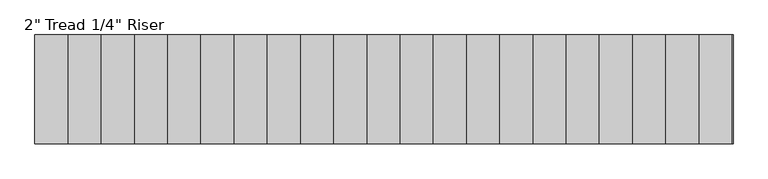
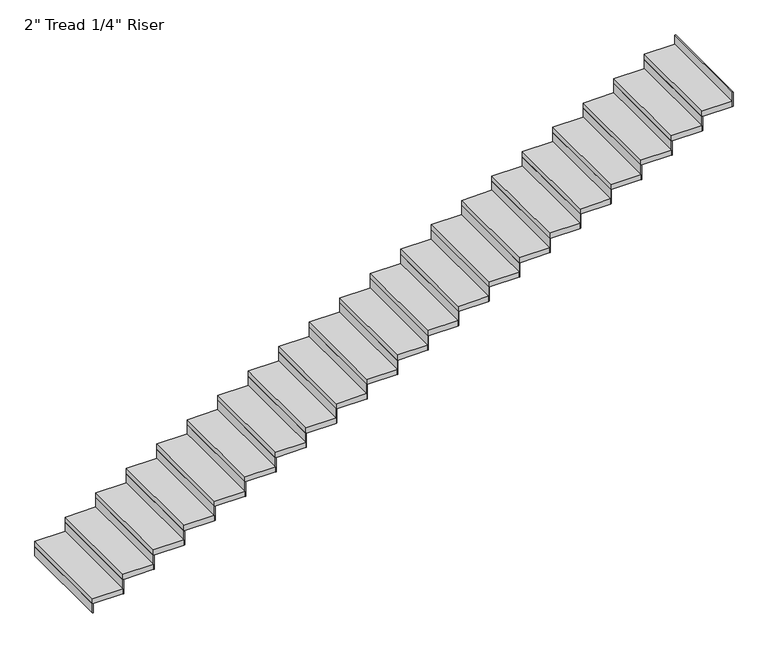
"""IFC4 building model written with IfcOpenShell, lengths in millimetres: stair flight geometry."""

from ifc_helpers import new_model, si_unit, frame, origin, origin_with_axes, place, context, project, spatial, polyline, outline, extrude, source, transform, mapped, element, save


def stair_flight_7e468073(model_context):
    return source(origin(), model_context, "Body", "SweptSolid", [
        extrude(outline(polyline([(14064.4766433, -11321.4469585), (14058.1266433, -11321.4469585), (14058.1266433, -10407.0469585), (14064.4766433, -10407.0469585), (14064.4766433, -11321.4469585)])), origin_with_axes(), (0.0, 0.0, 1.0), 87.7454545),
        extrude(outline(polyline([(14337.5266433, -10407.0469585), (14337.5266433, -11321.4469585), (14058.1266433, -11321.4469585), (14058.1266433, -10407.0469585), (14337.5266433, -10407.0469585)])), frame((0.0, 0.0, 87.7454545), z_axis=(0.0, 0.0, 1.0), x_axis=(1.0, 0.0, 0.0)), (0.0, 0.0, 1.0), 50.8),
        extrude(outline(polyline([(14343.8766433, -11321.4469585), (14337.5266433, -11321.4469585), (14337.5266433, -10407.0469585), (14343.8766433, -10407.0469585), (14343.8766433, -11321.4469585)])), frame((0.0, 0.0, 87.7454545), z_axis=(0.0, 0.0, 1.0), x_axis=(1.0, 0.0, 0.0)), (0.0, 0.0, 1.0), 138.5454545),
        extrude(outline(polyline([(14616.9266433, -10407.0469585), (14616.9266433, -11321.4469585), (14337.5266433, -11321.4469585), (14337.5266433, -10407.0469585), (14616.9266433, -10407.0469585)])), frame((0.0, 0.0, 226.2909091), z_axis=(0.0, 0.0, 1.0), x_axis=(1.0, 0.0, 0.0)), (0.0, 0.0, 1.0), 50.8),
        extrude(outline(polyline([(14623.2766433, -11321.4469585), (14616.9266433, -11321.4469585), (14616.9266433, -10407.0469585), (14623.2766433, -10407.0469585), (14623.2766433, -11321.4469585)])), frame((0.0, 0.0, 226.2909091), z_axis=(0.0, 0.0, 1.0), x_axis=(1.0, 0.0, 0.0)), (0.0, 0.0, 1.0), 138.5454545),
        extrude(outline(polyline([(14896.3266433, -10407.0469585), (14896.3266433, -11321.4469585), (14616.9266433, -11321.4469585), (14616.9266433, -10407.0469585), (14896.3266433, -10407.0469585)])), frame((0.0, 0.0, 364.8363636), z_axis=(0.0, 0.0, 1.0), x_axis=(1.0, 0.0, 0.0)), (0.0, 0.0, 1.0), 50.8),
        extrude(outline(polyline([(14902.6766433, -11321.4469585), (14896.3266433, -11321.4469585), (14896.3266433, -10407.0469585), (14902.6766433, -10407.0469585), (14902.6766433, -11321.4469585)])), frame((0.0, 0.0, 364.8363636), z_axis=(0.0, 0.0, 1.0), x_axis=(1.0, 0.0, 0.0)), (0.0, 0.0, 1.0), 138.5454545),
        extrude(outline(polyline([(15175.7266433, -10407.0469585), (15175.7266433, -11321.4469585), (14896.3266433, -11321.4469585), (14896.3266433, -10407.0469585), (15175.7266433, -10407.0469585)])), frame((0.0, 0.0, 503.3818182), z_axis=(0.0, 0.0, 1.0), x_axis=(1.0, 0.0, 0.0)), (0.0, 0.0, 1.0), 50.8),
        extrude(outline(polyline([(15182.0766433, -11321.4469585), (15175.7266433, -11321.4469585), (15175.7266433, -10407.0469585), (15182.0766433, -10407.0469585), (15182.0766433, -11321.4469585)])), frame((0.0, 0.0, 503.3818182), z_axis=(0.0, 0.0, 1.0), x_axis=(1.0, 0.0, 0.0)), (0.0, 0.0, 1.0), 138.5454545),
        extrude(outline(polyline([(15455.1266433, -10407.0469585), (15455.1266433, -11321.4469585), (15175.7266433, -11321.4469585), (15175.7266433, -10407.0469585), (15455.1266433, -10407.0469585)])), frame((0.0, 0.0, 641.9272727), z_axis=(0.0, 0.0, 1.0), x_axis=(1.0, 0.0, 0.0)), (0.0, 0.0, 1.0), 50.8),
        extrude(outline(polyline([(15461.4766433, -11321.4469585), (15455.1266433, -11321.4469585), (15455.1266433, -10407.0469585), (15461.4766433, -10407.0469585), (15461.4766433, -11321.4469585)])), frame((0.0, 0.0, 641.9272727), z_axis=(0.0, 0.0, 1.0), x_axis=(1.0, 0.0, 0.0)), (0.0, 0.0, 1.0), 138.5454545),
        extrude(outline(polyline([(15734.5266433, -10407.0469585), (15734.5266433, -11321.4469585), (15455.1266433, -11321.4469585), (15455.1266433, -10407.0469585), (15734.5266433, -10407.0469585)])), frame((0.0, 0.0, 780.4727273), z_axis=(0.0, 0.0, 1.0), x_axis=(1.0, 0.0, 0.0)), (0.0, 0.0, 1.0), 50.8),
        extrude(outline(polyline([(15740.8766433, -11321.4469585), (15734.5266433, -11321.4469585), (15734.5266433, -10407.0469585), (15740.8766433, -10407.0469585), (15740.8766433, -11321.4469585)])), frame((0.0, 0.0, 780.4727273), z_axis=(0.0, 0.0, 1.0), x_axis=(1.0, 0.0, 0.0)), (0.0, 0.0, 1.0), 138.5454545),
        extrude(outline(polyline([(16013.9266433, -10407.0469585), (16013.9266433, -11321.4469585), (15734.5266433, -11321.4469585), (15734.5266433, -10407.0469585), (16013.9266433, -10407.0469585)])), frame((0.0, 0.0, 919.0181818), z_axis=(0.0, 0.0, 1.0), x_axis=(1.0, 0.0, 0.0)), (0.0, 0.0, 1.0), 50.8),
        extrude(outline(polyline([(16020.2766433, -11321.4469585), (16013.9266433, -11321.4469585), (16013.9266433, -10407.0469585), (16020.2766433, -10407.0469585), (16020.2766433, -11321.4469585)])), frame((0.0, 0.0, 919.0181818), z_axis=(0.0, 0.0, 1.0), x_axis=(1.0, 0.0, 0.0)), (0.0, 0.0, 1.0), 138.5454545),
        extrude(outline(polyline([(16293.3266433, -10407.0469585), (16293.3266433, -11321.4469585), (16013.9266433, -11321.4469585), (16013.9266433, -10407.0469585), (16293.3266433, -10407.0469585)])), frame((0.0, 0.0, 1057.5636364), z_axis=(0.0, 0.0, 1.0), x_axis=(1.0, 0.0, 0.0)), (0.0, 0.0, 1.0), 50.8),
        extrude(outline(polyline([(16299.6766433, -11321.4469585), (16293.3266433, -11321.4469585), (16293.3266433, -10407.0469585), (16299.6766433, -10407.0469585), (16299.6766433, -11321.4469585)])), frame((0.0, 0.0, 1057.5636364), z_axis=(0.0, 0.0, 1.0), x_axis=(1.0, 0.0, 0.0)), (0.0, 0.0, 1.0), 138.5454545),
        extrude(outline(polyline([(16572.7266433, -10407.0469585), (16572.7266433, -11321.4469585), (16293.3266433, -11321.4469585), (16293.3266433, -10407.0469585), (16572.7266433, -10407.0469585)])), frame((0.0, 0.0, 1196.1090909), z_axis=(0.0, 0.0, 1.0), x_axis=(1.0, 0.0, 0.0)), (0.0, 0.0, 1.0), 50.8),
        extrude(outline(polyline([(16579.0766433, -11321.4469585), (16572.7266433, -11321.4469585), (16572.7266433, -10407.0469585), (16579.0766433, -10407.0469585), (16579.0766433, -11321.4469585)])), frame((0.0, 0.0, 1196.1090909), z_axis=(0.0, 0.0, 1.0), x_axis=(1.0, 0.0, 0.0)), (0.0, 0.0, 1.0), 138.5454545),
        extrude(outline(polyline([(16852.1266433, -10407.0469585), (16852.1266433, -11321.4469585), (16572.7266433, -11321.4469585), (16572.7266433, -10407.0469585), (16852.1266433, -10407.0469585)])), frame((0.0, 0.0, 1334.6545455), z_axis=(0.0, 0.0, 1.0), x_axis=(1.0, 0.0, 0.0)), (0.0, 0.0, 1.0), 50.8),
        extrude(outline(polyline([(16858.4766433, -11321.4469585), (16852.1266433, -11321.4469585), (16852.1266433, -10407.0469585), (16858.4766433, -10407.0469585), (16858.4766433, -11321.4469585)])), frame((0.0, 0.0, 1334.6545455), z_axis=(0.0, 0.0, 1.0), x_axis=(1.0, 0.0, 0.0)), (0.0, 0.0, 1.0), 138.5454545),
        extrude(outline(polyline([(17131.5266433, -10407.0469585), (17131.5266433, -11321.4469585), (16852.1266433, -11321.4469585), (16852.1266433, -10407.0469585), (17131.5266433, -10407.0469585)])), frame((0.0, 0.0, 1473.2), z_axis=(0.0, 0.0, 1.0), x_axis=(1.0, 0.0, 0.0)), (0.0, 0.0, 1.0), 50.8),
        extrude(outline(polyline([(17137.8766433, -11321.4469585), (17131.5266433, -11321.4469585), (17131.5266433, -10407.0469585), (17137.8766433, -10407.0469585), (17137.8766433, -11321.4469585)])), frame((0.0, 0.0, 1473.2), z_axis=(0.0, 0.0, 1.0), x_axis=(1.0, 0.0, 0.0)), (0.0, 0.0, 1.0), 138.5454545),
        extrude(outline(polyline([(17410.9266433, -10407.0469585), (17410.9266433, -11321.4469585), (17131.5266433, -11321.4469585), (17131.5266433, -10407.0469585), (17410.9266433, -10407.0469585)])), frame((0.0, 0.0, 1611.7454545), z_axis=(0.0, 0.0, 1.0), x_axis=(1.0, 0.0, 0.0)), (0.0, 0.0, 1.0), 50.8),
        extrude(outline(polyline([(17417.2766433, -11321.4469585), (17410.9266433, -11321.4469585), (17410.9266433, -10407.0469585), (17417.2766433, -10407.0469585), (17417.2766433, -11321.4469585)])), frame((0.0, 0.0, 1611.7454545), z_axis=(0.0, 0.0, 1.0), x_axis=(1.0, 0.0, 0.0)), (0.0, 0.0, 1.0), 138.5454545),
        extrude(outline(polyline([(17690.3266433, -10407.0469585), (17690.3266433, -11321.4469585), (17410.9266433, -11321.4469585), (17410.9266433, -10407.0469585), (17690.3266433, -10407.0469585)])), frame((0.0, 0.0, 1750.2909091), z_axis=(0.0, 0.0, 1.0), x_axis=(1.0, 0.0, 0.0)), (0.0, 0.0, 1.0), 50.8),
        extrude(outline(polyline([(17696.6766433, -11321.4469585), (17690.3266433, -11321.4469585), (17690.3266433, -10407.0469585), (17696.6766433, -10407.0469585), (17696.6766433, -11321.4469585)])), frame((0.0, 0.0, 1750.2909091), z_axis=(0.0, 0.0, 1.0), x_axis=(1.0, 0.0, 0.0)), (0.0, 0.0, 1.0), 138.5454545),
        extrude(outline(polyline([(17969.7266433, -10407.0469585), (17969.7266433, -11321.4469585), (17690.3266433, -11321.4469585), (17690.3266433, -10407.0469585), (17969.7266433, -10407.0469585)])), frame((0.0, 0.0, 1888.8363636), z_axis=(0.0, 0.0, 1.0), x_axis=(1.0, 0.0, 0.0)), (0.0, 0.0, 1.0), 50.8),
        extrude(outline(polyline([(17976.0766433, -11321.4469585), (17969.7266433, -11321.4469585), (17969.7266433, -10407.0469585), (17976.0766433, -10407.0469585), (17976.0766433, -11321.4469585)])), frame((0.0, 0.0, 1888.8363636), z_axis=(0.0, 0.0, 1.0), x_axis=(1.0, 0.0, 0.0)), (0.0, 0.0, 1.0), 138.5454545),
        extrude(outline(polyline([(18249.1266433, -10407.0469585), (18249.1266433, -11321.4469585), (17969.7266433, -11321.4469585), (17969.7266433, -10407.0469585), (18249.1266433, -10407.0469585)])), frame((0.0, 0.0, 2027.3818182), z_axis=(0.0, 0.0, 1.0), x_axis=(1.0, 0.0, 0.0)), (0.0, 0.0, 1.0), 50.8),
        extrude(outline(polyline([(18255.4766433, -11321.4469585), (18249.1266433, -11321.4469585), (18249.1266433, -10407.0469585), (18255.4766433, -10407.0469585), (18255.4766433, -11321.4469585)])), frame((0.0, 0.0, 2027.3818182), z_axis=(0.0, 0.0, 1.0), x_axis=(1.0, 0.0, 0.0)), (0.0, 0.0, 1.0), 138.5454545),
        extrude(outline(polyline([(18528.5266433, -10407.0469585), (18528.5266433, -11321.4469585), (18249.1266433, -11321.4469585), (18249.1266433, -10407.0469585), (18528.5266433, -10407.0469585)])), frame((0.0, 0.0, 2165.9272727), z_axis=(0.0, 0.0, 1.0), x_axis=(1.0, 0.0, 0.0)), (0.0, 0.0, 1.0), 50.8),
        extrude(outline(polyline([(18534.8766433, -11321.4469585), (18528.5266433, -11321.4469585), (18528.5266433, -10407.0469585), (18534.8766433, -10407.0469585), (18534.8766433, -11321.4469585)])), frame((0.0, 0.0, 2165.9272727), z_axis=(0.0, 0.0, 1.0), x_axis=(1.0, 0.0, 0.0)), (0.0, 0.0, 1.0), 138.5454545),
        extrude(outline(polyline([(18807.9266433, -10407.0469585), (18807.9266433, -11321.4469585), (18528.5266433, -11321.4469585), (18528.5266433, -10407.0469585), (18807.9266433, -10407.0469585)])), frame((0.0, 0.0, 2304.4727273), z_axis=(0.0, 0.0, 1.0), x_axis=(1.0, 0.0, 0.0)), (0.0, 0.0, 1.0), 50.8),
        extrude(outline(polyline([(18814.2766433, -11321.4469585), (18807.9266433, -11321.4469585), (18807.9266433, -10407.0469585), (18814.2766433, -10407.0469585), (18814.2766433, -11321.4469585)])), frame((0.0, 0.0, 2304.4727273), z_axis=(0.0, 0.0, 1.0), x_axis=(1.0, 0.0, 0.0)), (0.0, 0.0, 1.0), 138.5454545),
        extrude(outline(polyline([(19087.3266433, -10407.0469585), (19087.3266433, -11321.4469585), (18807.9266433, -11321.4469585), (18807.9266433, -10407.0469585), (19087.3266433, -10407.0469585)])), frame((0.0, 0.0, 2443.0181818), z_axis=(0.0, 0.0, 1.0), x_axis=(1.0, 0.0, 0.0)), (0.0, 0.0, 1.0), 50.8),
        extrude(outline(polyline([(19093.6766433, -11321.4469585), (19087.3266433, -11321.4469585), (19087.3266433, -10407.0469585), (19093.6766433, -10407.0469585), (19093.6766433, -11321.4469585)])), frame((0.0, 0.0, 2443.0181818), z_axis=(0.0, 0.0, 1.0), x_axis=(1.0, 0.0, 0.0)), (0.0, 0.0, 1.0), 138.5454545),
        extrude(outline(polyline([(19366.7266433, -10407.0469585), (19366.7266433, -11321.4469585), (19087.3266433, -11321.4469585), (19087.3266433, -10407.0469585), (19366.7266433, -10407.0469585)])), frame((0.0, 0.0, 2581.5636364), z_axis=(0.0, 0.0, 1.0), x_axis=(1.0, 0.0, 0.0)), (0.0, 0.0, 1.0), 50.8),
        extrude(outline(polyline([(19373.0766433, -11321.4469585), (19366.7266433, -11321.4469585), (19366.7266433, -10407.0469585), (19373.0766433, -10407.0469585), (19373.0766433, -11321.4469585)])), frame((0.0, 0.0, 2581.5636364), z_axis=(0.0, 0.0, 1.0), x_axis=(1.0, 0.0, 0.0)), (0.0, 0.0, 1.0), 138.5454545),
        extrude(outline(polyline([(19646.1266433, -10407.0469585), (19646.1266433, -11321.4469585), (19366.7266433, -11321.4469585), (19366.7266433, -10407.0469585), (19646.1266433, -10407.0469585)])), frame((0.0, 0.0, 2720.1090909), z_axis=(0.0, 0.0, 1.0), x_axis=(1.0, 0.0, 0.0)), (0.0, 0.0, 1.0), 50.8),
        extrude(outline(polyline([(19652.4766433, -11321.4469585), (19646.1266433, -11321.4469585), (19646.1266433, -10407.0469585), (19652.4766433, -10407.0469585), (19652.4766433, -11321.4469585)])), frame((0.0, 0.0, 2720.1090909), z_axis=(0.0, 0.0, 1.0), x_axis=(1.0, 0.0, 0.0)), (0.0, 0.0, 1.0), 138.5454545),
        extrude(outline(polyline([(19931.8766433, -11321.4469585), (19925.5266433, -11321.4469585), (19925.5266433, -10407.0469585), (19931.8766433, -10407.0469585), (19931.8766433, -11321.4469585)])), frame((0.0, 0.0, 2858.6545455), z_axis=(0.0, 0.0, 1.0), x_axis=(1.0, 0.0, 0.0)), (0.0, 0.0, 1.0), 138.5454545),
        extrude(outline(polyline([(19925.5266433, -10407.0469585), (19925.5266433, -11321.4469585), (19646.1266433, -11321.4469585), (19646.1266433, -10407.0469585), (19925.5266433, -10407.0469585)])), frame((0.0, 0.0, 2858.6545455), z_axis=(0.0, 0.0, 1.0), x_axis=(1.0, 0.0, 0.0)), (0.0, 0.0, 1.0), 50.8),
    ])


if __name__ == "__main__":
    model = new_model("IFC4")
    model_context = context("Model", 3, world=origin())
    ifc_project = project(units=[si_unit("LENGTHUNIT", "METRE", prefix="MILLI")], contexts=[model_context])
    site = spatial("IfcSite", under=ifc_project)
    building = spatial("IfcBuilding", under=site)
    placement = place(None, origin())
    stair_flight_shape = stair_flight_7e468073(model_context)
    element("IfcStairFlight", 1, ObjectType="2\" Tread 1/4\" Riser", at=placement, inside=building, context=model_context, shape_type="MappedRepresentation", body=[
        mapped(stair_flight_shape, transform((0.0, 0.0, 0.0), x_axis=(1.0, 0.0, 0.0), y_axis=(0.0, 1.0, 0.0), z_axis=(0.0, 0.0, 1.0))),
    ])
    save(model, "model.ifc")
